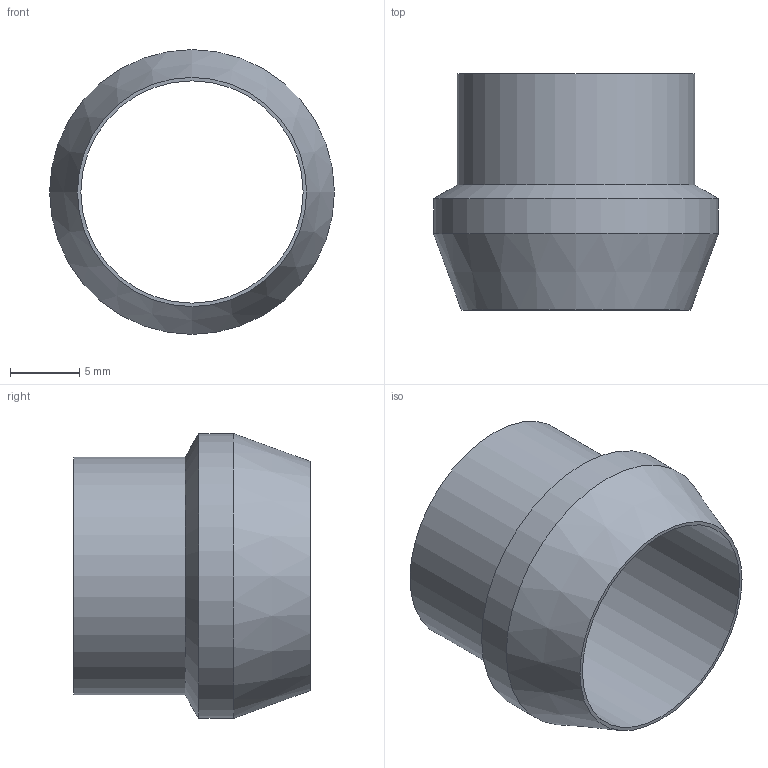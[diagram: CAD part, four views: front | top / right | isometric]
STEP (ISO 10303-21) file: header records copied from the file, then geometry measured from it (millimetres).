
FILE_DESCRIPTION(/* description */ (''),/* implementation_level */ '2;1');
FILE_NAME(/* name */ 'D:\CDC pneumatics\inventor\two touch fitting BSBM\CSM\CSM 16.stp',/* time_stamp */ '2015-10-01T14:06:55+09:00',/* author */ ('DIAMOND'),/* organization */ (''),/* preprocessor_version */ 'ST-DEVELOPER v15.6',/* originating_system */ 'Autodesk Inventor 2015',/* authorisation */ '');
FILE_SCHEMA (('AUTOMOTIVE_DESIGN { 1 0 10303 214 3 1 1 }'));
Length unit declared in the file: millimetre
Products named in the file (1): CSM 16
Bounding box: 20.5 x 17 x 20.5 mm (x, y, z)
Volume: 1007.6 mm3; surface area: 1943.8 mm2
Topology: 1 solids, 1 shells, 7 faces, 12 edges, 7 vertices
Faces by surface type: cylinder 3, cone 2, plane 2
Full cylindrical faces by diameter (mm): 16 x1, 17.1 x1, 20.5 x1
Entity records: 172 total; most frequent: DIRECTION 30, CARTESIAN_POINT 22, AXIS2_PLACEMENT_3D 15, EDGE_LOOP 14, ORIENTED_EDGE 14, FACE_BOUND 7, FACE_OUTER_BOUND 7, CIRCLE 7
